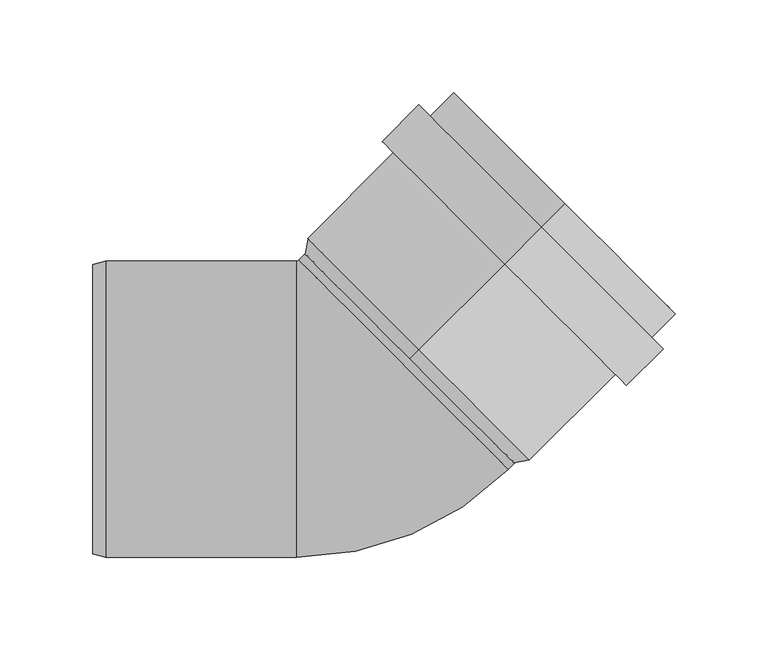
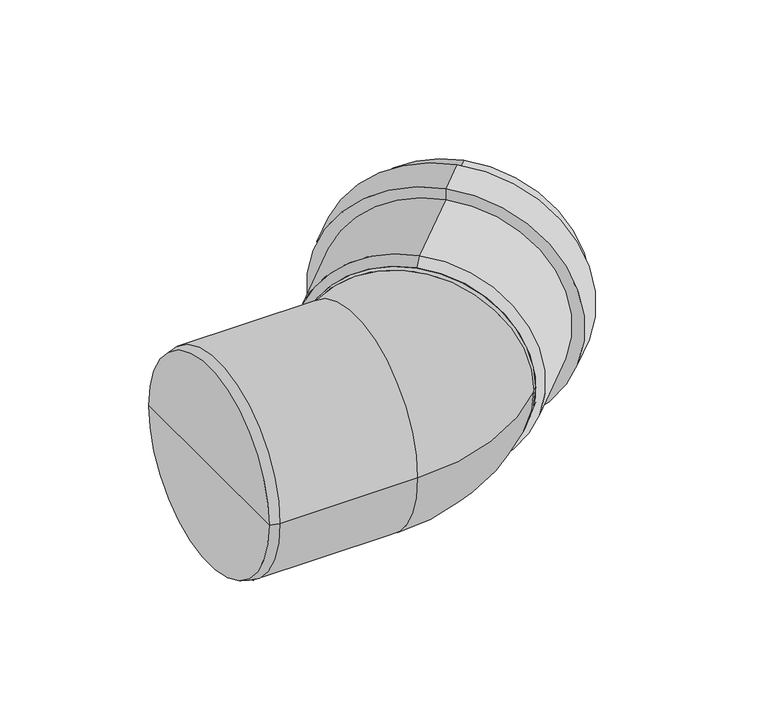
"""IFC4 building model written with IfcOpenShell, lengths in millimetres: pipe fitting geometry, OSMA_KG2000_PPKGB : Koleno 45°."""

from ifc_helpers import new_model, si_unit, point, frame, origin, place, context, project, spatial, polyline, circle_curve, ellipse_curve, trimmed, source, transform, mapped, element, save
from ifc_brep_helpers import plane_surface, cylinder_surface, revolved_surface, advanced_brep


def pipe_fitting_8bdaad26(model_context):
    return source(origin(), model_context, "Body", "AdvancedBrep", [
        advanced_brep(
        [(32.1733585, 32.1733585, 80.0), (32.1733585, 32.1733585, -80.0), (111.0157646, 111.0157646, -80.0), (111.0157646, 111.0157646, 80.0), (78.4888527, 78.4888527, 84.9), (78.4888527, 78.4888527, -84.9), (32.1733585, 32.1733585, -84.9), (32.1733585, 32.1733585, 84.9), (78.4888527, 78.4888527, 93.5), (78.4888527, 78.4888527, -93.5), (98.2878426, 98.2878426, 93.5), (98.2878426, 98.2878426, -93.5), (98.2878426, 98.2878426, 84.9), (98.2878426, 98.2878426, -84.9), (111.0157646, 111.0157646, 84.9), (111.0157646, 111.0157646, -84.9), (27.2236111, 27.2236111, 75.1), (27.2236111, 27.2236111, -75.1), (27.2236111, 27.2236111, 80.0), (27.2236111, 27.2236111, -80.0)],
        [
            (0, 1, circle_curve(frame((32.1733585, 32.1733585, 0.0), z_axis=(-0.7071067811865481, -0.7071067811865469, 0.0), x_axis=(0.0, 0.0, -1.0)), 80.0)),
            (1, 2),
            (2, 3, circle_curve(frame((111.0157646, 111.0157646, 0.0), z_axis=(0.7071067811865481, 0.7071067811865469, 0.0), x_axis=(0.0, 0.0, -1.0)), 80.0)),
            (3, 0),
            (1, 0, circle_curve(frame((32.1733585, 32.1733585, 0.0), z_axis=(-0.7071067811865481, -0.7071067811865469, 0.0), x_axis=(0.0, 0.0, -1.0)), 80.0)),
            (3, 2, circle_curve(frame((111.0157646, 111.0157646, 0.0), z_axis=(0.7071067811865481, 0.7071067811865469, 0.0), x_axis=(0.0, 0.0, -1.0)), 80.0)),
            (4, 5, circle_curve(frame((78.4888527, 78.4888527, 0.0), z_axis=(-0.7071067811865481, -0.7071067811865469, 0.0), x_axis=(0.0, 0.0, -1.0)), 84.9)),
            (5, 6),
            (6, 7, circle_curve(frame((32.1733585, 32.1733585, 0.0), z_axis=(0.7071067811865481, 0.7071067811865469, 0.0), x_axis=(0.0, 0.0, -1.0)), 84.9)),
            (7, 4),
            (5, 4, circle_curve(frame((78.4888527, 78.4888527, 0.0), z_axis=(-0.7071067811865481, -0.7071067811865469, 0.0), x_axis=(0.0, 0.0, -1.0)), 84.9)),
            (7, 6, circle_curve(frame((32.1733585, 32.1733585, 0.0), z_axis=(0.7071067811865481, 0.7071067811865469, 0.0), x_axis=(0.0, 0.0, -1.0)), 84.9)),
            (8, 9, circle_curve(frame((78.4888527, 78.4888527, 0.0), z_axis=(-0.7071067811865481, -0.7071067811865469, 0.0), x_axis=(0.0, 0.0, -1.0)), 93.5)),
            (9, 5),
            (4, 8),
            (9, 8, circle_curve(frame((78.4888527, 78.4888527, 0.0), z_axis=(-0.7071067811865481, -0.7071067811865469, 0.0), x_axis=(0.0, 0.0, -1.0)), 93.5)),
            (10, 11, circle_curve(frame((98.2878426, 98.2878426, 0.0), z_axis=(-0.7071067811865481, -0.7071067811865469, 0.0), x_axis=(0.0, 0.0, -1.0)), 93.5)),
            (11, 9),
            (8, 10),
            (11, 10, circle_curve(frame((98.2878426, 98.2878426, 0.0), z_axis=(-0.7071067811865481, -0.7071067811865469, 0.0), x_axis=(0.0, 0.0, -1.0)), 93.5)),
            (12, 13, circle_curve(frame((98.2878426, 98.2878426, 0.0), z_axis=(-0.7071067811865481, -0.7071067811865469, 0.0), x_axis=(0.0, 0.0, -1.0)), 84.9)),
            (13, 11),
            (10, 12),
            (13, 12, circle_curve(frame((98.2878426, 98.2878426, 0.0), z_axis=(-0.7071067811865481, -0.7071067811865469, 0.0), x_axis=(0.0, 0.0, -1.0)), 84.9)),
            (14, 15, circle_curve(frame((111.0157646, 111.0157646, 0.0), z_axis=(-0.7071067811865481, -0.7071067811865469, 0.0), x_axis=(0.0, 0.0, -1.0)), 84.9)),
            (15, 13),
            (12, 14),
            (15, 14, circle_curve(frame((111.0157646, 111.0157646, 0.0), z_axis=(-0.7071067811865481, -0.7071067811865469, 0.0), x_axis=(0.0, 0.0, -1.0)), 84.9)),
            (2, 15),
            (14, 3),
            (16, 17, circle_curve(frame((27.2236111, 27.2236111, 0.0), z_axis=(-0.7071067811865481, -0.7071067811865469, 0.0), x_axis=(0.0, 0.0, -1.0)), 75.1)),
            (17, 1),
            (0, 16),
            (17, 16, circle_curve(frame((27.2236111, 27.2236111, 0.0), z_axis=(-0.7071067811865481, -0.7071067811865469, 0.0), x_axis=(0.0, 0.0, -1.0)), 75.1)),
            (18, 19, circle_curve(frame((27.2236111, 27.2236111, 0.0), z_axis=(-0.7071067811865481, -0.7071067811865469, 0.0), x_axis=(0.0, 0.0, -1.0)), 80.0)),
            (19, 17),
            (16, 18),
            (19, 18, circle_curve(frame((27.2236111, 27.2236111, 0.0), z_axis=(-0.7071067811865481, -0.7071067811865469, 0.0), x_axis=(0.0, 0.0, -1.0)), 80.0)),
            (6, 19),
            (18, 7),
        ],
        [
            revolved_surface(polyline([(111.01576459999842, 111.01576460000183, -80.0), (32.17335849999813, 32.17335850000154, -80.0)]), (1998.6190877, 1998.6190877, 0.0), (0.7071067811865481, 0.7071067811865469, 0.0)),
            cylinder_surface(frame((1998.6190877, 1998.6190877, 0.0), z_axis=(0.7071067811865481, 0.7071067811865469, 0.0), x_axis=(0.0, 0.0, -1.0)), 84.9),
            plane_surface(frame((78.4888527, 78.4888527, 0.0), z_axis=(-0.7071067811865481, -0.7071067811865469, 0.0), x_axis=(0.0, 0.0, -1.0))),
            cylinder_surface(frame((1998.6190877, 1998.6190877, 0.0), z_axis=(0.7071067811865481, 0.7071067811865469, 0.0), x_axis=(0.0, 0.0, -1.0)), 93.5),
            plane_surface(frame((98.2878426, 98.2878426, 0.0), z_axis=(0.7071067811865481, 0.7071067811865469, 0.0), x_axis=(0.0, 0.0, -1.0))),
            plane_surface(frame((111.0157646, 111.0157646, 0.0), z_axis=(0.7071067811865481, 0.7071067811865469, 0.0), x_axis=(0.0, 0.0, -1.0))),
            revolved_surface(polyline([(32.1733585, 32.1733585, -80.0), (27.2236111, 27.2236111, -75.1)]), (1998.6190877, 1998.6190877, 0.0), (0.7071067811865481, 0.7071067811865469, 0.0)),
            plane_surface(frame((27.2236111, 27.2236111, 0.0), z_axis=(-0.7071067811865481, -0.7071067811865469, 0.0), x_axis=(0.0, 0.0, -1.0))),
            revolved_surface(polyline([(27.2236111, 27.2236111, -80.0), (32.1733585, 32.1733585, -84.9)]), (1998.6190877, 1998.6190877, 0.0), (0.7071067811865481, 0.7071067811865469, 0.0)),
        ],
        [
            (0, [[1, 2, 3, 4]]),
            (0, [[5, -4, 6, -2]]),
            (1, [[7, 8, 9, 10]]),
            (1, [[11, -10, 12, -8]]),
            (2, [[13, 14, -7, 15]]),
            (2, [[16, -15, -11, -14]]),
            (3, [[17, 18, -13, 19]]),
            (3, [[20, -19, -16, -18]]),
            (4, [[21, 22, -17, 23]]),
            (4, [[24, -23, -20, -22]]),
            (1, [[25, 26, -21, 27]]),
            (1, [[28, -27, -24, -26]]),
            (5, [[-3, 29, -25, 30]]),
            (5, [[-6, -30, -28, -29]]),
            (6, [[31, 32, -1, 33]]),
            (6, [[34, -33, -5, -32]]),
            (7, [[35, 36, -31, 37]]),
            (7, [[38, -37, -34, -36]]),
            (8, [[-9, 39, -35, 40]]),
            (8, [[-12, -40, -38, -39]]),
        ],
    ),
        advanced_brep(
        [(-32.6977452, 80.4393398, 0.0), (-33.7584053, 80.0, 0.0), (-33.7584053, -80.0, 0.0), (80.4393398, -32.6977452, 0.0), (23.8707973, 23.8707973, 80.0), (23.8707973, 23.8707973, -80.0), (-144.0, 0.0, 0.0), (-144.0, 78.1243556, 0.0), (-144.0, -78.1243556, 0.0), (-137.0, 80.0, 0.0), (-137.0, -80.0, 0.0), (88.3883476, -24.7487373, 0.0), (-24.7487373, 88.3883476, 0.0)],
        [
            (0, 1, circle_curve(frame((-33.7584053, 81.5, 0.0), z_axis=(0.0, 0.0, -1.0), x_axis=(0.0, -1.0, 0.0)), 1.5)),
            (1, 2, circle_curve(frame((-33.7584053, 0.0, 0.0), z_axis=(1.0, 0.0, 0.0), x_axis=(0.0, 1.0, 0.0)), 80.0)),
            (2, 3, circle_curve(frame((-33.7584053, 81.5, 0.0), z_axis=(0.0, 0.0, 1.0), x_axis=(0.0, -1.0, 0.0)), 161.5)),
            (3, 4, circle_curve(frame((23.8707973, 23.8707973, 0.0), z_axis=(-0.7071067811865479, -0.7071067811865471, 0.0), x_axis=(-0.7071067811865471, 0.7071067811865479, 0.0)), 80.0)),
            (4, 0, circle_curve(frame((23.8707973, 23.8707973, 0.0), z_axis=(-0.7071067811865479, -0.7071067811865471, 0.0), x_axis=(-0.7071067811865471, 0.7071067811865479, 0.0)), 80.0)),
            (0, 5, circle_curve(frame((23.8707973, 23.8707973, 0.0), z_axis=(-0.7071067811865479, -0.7071067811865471, 0.0), x_axis=(-0.7071067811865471, 0.7071067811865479, 0.0)), 80.0)),
            (5, 3, circle_curve(frame((23.8707973, 23.8707973, 0.0), z_axis=(-0.707106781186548, -0.707106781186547, 0.0), x_axis=(-0.707106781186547, 0.707106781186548, 0.0)), 80.0)),
            (2, 1, circle_curve(frame((-33.7584053, 0.0, 0.0), z_axis=(1.0, 0.0, 0.0), x_axis=(0.0, 1.0, 0.0)), 80.0)),
            (6, 7),
            (7, 8, circle_curve(frame((-144.0, 0.0, 0.0), z_axis=(-1.0, 0.0, 0.0), x_axis=(0.0, 1.0, 0.0)), 78.1243556)),
            (8, 6),
            (8, 7, circle_curve(frame((-144.0, 0.0, 0.0), z_axis=(-1.0, 0.0, 0.0), x_axis=(0.0, 1.0, 0.0)), 78.1243556)),
            (7, 9),
            (9, 10, circle_curve(frame((-137.0, 0.0, 0.0), z_axis=(-1.0, 0.0, 0.0), x_axis=(0.0, 1.0, 0.0)), 80.0)),
            (10, 8),
            (10, 9, circle_curve(frame((-137.0, 0.0, 0.0), z_axis=(-1.0, 0.0, 0.0), x_axis=(0.0, 1.0, 0.0)), 80.0)),
            (9, 1),
            (2, 10),
            (11, 12, circle_curve(frame((31.8198052, 31.8198052, 0.0), z_axis=(0.7071067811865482, 0.707106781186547, 0.0), x_axis=(-0.707106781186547, 0.7071067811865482, 0.0)), 80.0)),
            (12, 11, circle_curve(frame((31.8198052, 31.8198052, 0.0), z_axis=(0.7071067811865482, 0.707106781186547, 0.0), x_axis=(-0.707106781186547, 0.7071067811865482, 0.0)), 80.0)),
            (12, 0),
            (3, 11),
        ],
        [
            revolved_surface(trimmed(ellipse_curve(frame((-33.7584053, 0.0, 0.0), z_axis=(-1.0, 0.0, 0.0), x_axis=(0.0, 1.0, 0.0)), 80.0, 80.0), [point((-33.7584053, -80.0, 0.0))], [point((-33.7584053, 80.0, 0.0))], True, "CARTESIAN"), (-33.7584053, 81.5, 0.0), (0.0, 0.0, 1.0)),
            revolved_surface(trimmed(ellipse_curve(frame((-33.7584053, 0.0, 0.0), z_axis=(-1.0, 0.0, 0.0), x_axis=(0.0, 1.0, 0.0)), 80.0, 80.0), [point((-33.7584053, 80.0, 0.0))], [point((-33.7584053, -80.0, 0.0))], True, "CARTESIAN"), (-33.7584053, 81.5, 0.0), (0.0, 0.0, 1.0)),
            plane_surface(frame((-144.0, 0.0, 0.0), z_axis=(-1.0, 0.0, 0.0), x_axis=(0.0, 1.0, 0.0))),
            revolved_surface(polyline([(-137.0, 80.0, 0.0), (-144.0, 78.1243556, 0.0)]), (331.0587718, 0.0, 0.0), (-1.0, 0.0, 0.0)),
            cylinder_surface(frame((331.0587718, 0.0, 0.0), z_axis=(-1.0, 0.0, 0.0), x_axis=(0.0, 1.0, 0.0)), 80.0),
            plane_surface(frame((31.8198052, 31.8198052, 0.0), z_axis=(0.7071067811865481, 0.7071067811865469, 0.0), x_axis=(0.0, 0.0, 1.0))),
            cylinder_surface(frame((23.8707973, 23.8707973, 0.0), z_axis=(-0.7071067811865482, -0.707106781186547, 0.0), x_axis=(-0.707106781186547, 0.7071067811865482, 0.0)), 80.0),
        ],
        [
            (0, [[1, 2, 3, 4, 5]]),
            (1, [[-1, 6, 7, -3, 8]]),
            (2, [[9, 10, 11]]),
            (2, [[-9, -11, 12]]),
            (3, [[-10, 13, 14, 15]]),
            (3, [[-12, -15, 16, -13]]),
            (4, [[-14, 17, -8, 18]]),
            (4, [[-16, -18, -2, -17]]),
            (5, [[19, 20]]),
            (6, [[-20, 21, -5, -4, 22]]),
            (6, [[-19, -22, -7, -6, -21]]),
        ],
    ),
    ])


if __name__ == "__main__":
    model = new_model("IFC4")
    model_context = context("Model", 3, world=origin())
    ifc_project = project(units=[si_unit("LENGTHUNIT", "METRE", prefix="MILLI")], contexts=[model_context])
    site = spatial("IfcSite", under=ifc_project)
    building = spatial("IfcBuilding", under=site)
    placement = place(None, origin())
    pipe_fitting_shape = pipe_fitting_8bdaad26(model_context)
    element("IfcPipeFitting", 1, ObjectType="OSMA_KG2000_PPKGB : Koleno 45°", at=placement, inside=building, context=model_context, shape_type="MappedRepresentation", body=[
        mapped(pipe_fitting_shape, transform((0.0, 0.0, 0.0), x_axis=(1.0, 0.0, 0.0), y_axis=(0.0, 1.0, 0.0), z_axis=(0.0, 0.0, 1.0))),
    ])
    save(model, "model.ifc")
